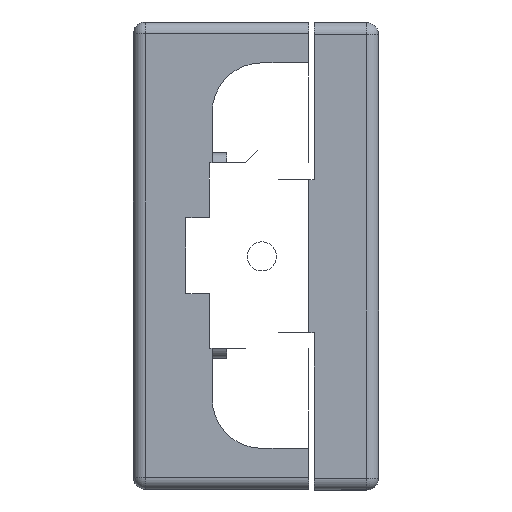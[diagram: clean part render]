
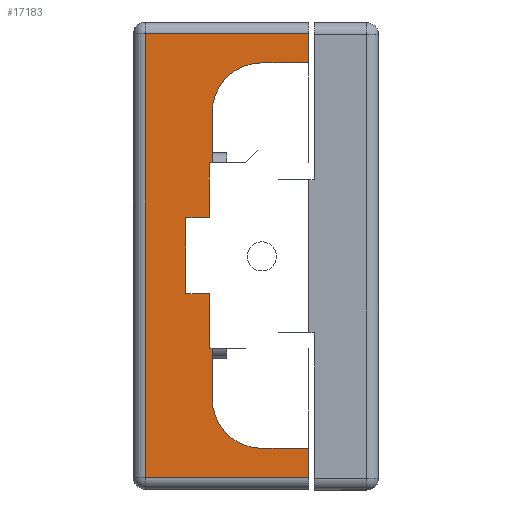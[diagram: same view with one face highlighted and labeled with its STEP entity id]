
A CAD part, left-side view. The second image highlights one B-rep face of the part: STEP entity #17183.
In plain terms, the highlighted planar face has unit normal (-1, 0, 0).
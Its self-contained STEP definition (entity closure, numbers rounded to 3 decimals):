
#35 = EDGE_CURVE ( 'NONE', #10349, #2771, #7876, .T. ) ;
#81 = ORIENTED_EDGE ( 'NONE', *, *, #8633, .F. ) ;
#169 = CARTESIAN_POINT ( 'NONE',  ( -67.595, 0.552, -7.882 ) ) ;
#181 = AXIS2_PLACEMENT_3D ( 'NONE', #425, #1807, #11745 ) ;
#332 = ORIENTED_EDGE ( 'NONE', *, *, #12988, .F. ) ;
#425 = CARTESIAN_POINT ( 'NONE',  ( -67.595, 15.552, -19.932 ) ) ;
#710 = LINE ( 'NONE', #6237, #2035 ) ;
#777 = VERTEX_POINT ( 'NONE', #7591 ) ;
#792 = EDGE_CURVE ( 'NONE', #13865, #17535, #12606, .T. ) ;
#1005 = DIRECTION ( 'NONE',  ( 0., 0., -1. ) ) ;
#1461 = VERTEX_POINT ( 'NONE', #9976 ) ;
#1480 = CARTESIAN_POINT ( 'NONE',  ( -67.595, 9.052, -3.182 ) ) ;
#1529 = DIRECTION ( 'NONE',  ( 0., -1., 0. ) ) ;
#1756 = VECTOR ( 'NONE', #14605, 1000. ) ;
#1807 = DIRECTION ( 'NONE',  ( 1., 0., 0. ) ) ;
#1870 = VECTOR ( 'NONE', #3867, 1000. ) ;
#2002 = CARTESIAN_POINT ( 'NONE',  ( -67.595, 4.552, 16.568 ) ) ;
#2035 = VECTOR ( 'NONE', #17346, 1000. ) ;
#2158 = VERTEX_POINT ( 'NONE', #3423 ) ;
#2169 = CARTESIAN_POINT ( 'NONE',  ( -67.595, 0.552, -18.932 ) ) ;
#2516 = EDGE_CURVE ( 'NONE', #3226, #17639, #10465, .T. ) ;
#2662 = EDGE_CURVE ( 'NONE', #10001, #777, #11988, .T. ) ;
#2683 = EDGE_CURVE ( 'NONE', #5900, #11520, #12357, .T. ) ;
#2735 = ORIENTED_EDGE ( 'NONE', *, *, #6198, .F. ) ;
#2771 = VERTEX_POINT ( 'NONE', #16966 ) ;
#2875 = LINE ( 'NONE', #8556, #4196 ) ;
#3226 = VERTEX_POINT ( 'NONE', #4086 ) ;
#3331 = VECTOR ( 'NONE', #4705, 1000. ) ;
#3382 = VERTEX_POINT ( 'NONE', #14546 ) ;
#3423 = CARTESIAN_POINT ( 'NONE',  ( -67.595, 8.802, -12.182 ) ) ;
#3448 = EDGE_CURVE ( 'NONE', #2771, #5900, #3858, .T. ) ;
#3858 = LINE ( 'NONE', #5385, #3331 ) ;
#3867 = DIRECTION ( 'NONE',  ( 0., 0., -1. ) ) ;
#3933 = CARTESIAN_POINT ( 'NONE',  ( -67.595, 11.052, -3.182 ) ) ;
#4086 = CARTESIAN_POINT ( 'NONE',  ( -67.595, 14.552, -18.932 ) ) ;
#4196 = VECTOR ( 'NONE', #12680, 1000. ) ;
#4240 = AXIS2_PLACEMENT_3D ( 'NONE', #15386, #7083, #16754 ) ;
#4605 = CIRCLE ( 'NONE', #4240, 4.25 ) ;
#4623 = EDGE_CURVE ( 'NONE', #13648, #3382, #12234, .T. ) ;
#4677 = ORIENTED_EDGE ( 'NONE', *, *, #7654, .T. ) ;
#4705 = DIRECTION ( 'NONE',  ( 0., 1., 0. ) ) ;
#4746 = EDGE_CURVE ( 'NONE', #16986, #10349, #16019, .T. ) ;
#4948 = ORIENTED_EDGE ( 'NONE', *, *, #10698, .F. ) ;
#5385 = CARTESIAN_POINT ( 'NONE',  ( -67.595, 11.052, 3.318 ) ) ;
#5471 = LINE ( 'NONE', #16185, #5711 ) ;
#5711 = VECTOR ( 'NONE', #9396, 1000. ) ;
#5769 = EDGE_LOOP ( 'NONE', ( #15069, #6124, #4677, #11723, #15345, #12550, #81, #2735, #332, #17222, #13003, #7495, #5824, #6881, #7294, #4948, #12400, #16310 ) ) ;
#5817 = CARTESIAN_POINT ( 'NONE',  ( -67.595, 9.052, 8.018 ) ) ;
#5824 = ORIENTED_EDGE ( 'NONE', *, *, #3448, .F. ) ;
#5900 = VERTEX_POINT ( 'NONE', #7087 ) ;
#6083 = CARTESIAN_POINT ( 'NONE',  ( -67.595, 4.552, -16.432 ) ) ;
#6100 = VERTEX_POINT ( 'NONE', #10762 ) ;
#6124 = ORIENTED_EDGE ( 'NONE', *, *, #14849, .T. ) ;
#6198 = EDGE_CURVE ( 'NONE', #6100, #2158, #6744, .T. ) ;
#6237 = CARTESIAN_POINT ( 'NONE',  ( -67.595, 0.552, -19.932 ) ) ;
#6519 = DIRECTION ( 'NONE',  ( 0., -1., 0. ) ) ;
#6581 = EDGE_CURVE ( 'NONE', #17639, #777, #710, .T. ) ;
#6744 = LINE ( 'NONE', #9633, #9255 ) ;
#6881 = ORIENTED_EDGE ( 'NONE', *, *, #35, .F. ) ;
#6996 = CARTESIAN_POINT ( 'NONE',  ( -67.595, 9.052, -3.182 ) ) ;
#7083 = DIRECTION ( 'NONE',  ( -1., 0., 0. ) ) ;
#7087 = CARTESIAN_POINT ( 'NONE',  ( -67.595, 11.052, 3.318 ) ) ;
#7294 = ORIENTED_EDGE ( 'NONE', *, *, #4746, .F. ) ;
#7495 = ORIENTED_EDGE ( 'NONE', *, *, #2683, .F. ) ;
#7591 = CARTESIAN_POINT ( 'NONE',  ( -67.595, 0.552, -16.432 ) ) ;
#7654 = EDGE_CURVE ( 'NONE', #15996, #3226, #10163, .T. ) ;
#7876 = LINE ( 'NONE', #12796, #7959 ) ;
#7959 = VECTOR ( 'NONE', #15567, 1000. ) ;
#7983 = CARTESIAN_POINT ( 'NONE',  ( -67.595, 0.552, -19.932 ) ) ;
#8106 = DIRECTION ( 'NONE',  ( 0., 0., 1. ) ) ;
#8556 = CARTESIAN_POINT ( 'NONE',  ( -67.595, 8.802, 12.318 ) ) ;
#8633 = EDGE_CURVE ( 'NONE', #2158, #10001, #4605, .T. ) ;
#8699 = CARTESIAN_POINT ( 'NONE',  ( -67.595, 15.552, 19.068 ) ) ;
#9001 = PLANE ( 'NONE',  #181 ) ;
#9071 = EDGE_CURVE ( 'NONE', #11520, #10780, #13236, .T. ) ;
#9255 = VECTOR ( 'NONE', #17780, 1000. ) ;
#9396 = DIRECTION ( 'NONE',  ( 0., 1., 0. ) ) ;
#9550 = CARTESIAN_POINT ( 'NONE',  ( -67.595, 14.552, -19.932 ) ) ;
#9633 = CARTESIAN_POINT ( 'NONE',  ( -67.595, 8.802, -12.182 ) ) ;
#9976 = CARTESIAN_POINT ( 'NONE',  ( -67.595, 9.052, -7.882 ) ) ;
#10001 = VERTEX_POINT ( 'NONE', #18095 ) ;
#10163 = LINE ( 'NONE', #9550, #1870 ) ;
#10349 = VERTEX_POINT ( 'NONE', #5817 ) ;
#10408 = LINE ( 'NONE', #169, #10431 ) ;
#10431 = VECTOR ( 'NONE', #1529, 1000. ) ;
#10434 = VECTOR ( 'NONE', #11219, 1000. ) ;
#10465 = LINE ( 'NONE', #12650, #10434 ) ;
#10611 = CARTESIAN_POINT ( 'NONE',  ( -67.595, 0.552, 19.068 ) ) ;
#10616 = CARTESIAN_POINT ( 'NONE',  ( -67.595, 4.552, 12.318 ) ) ;
#10643 = LINE ( 'NONE', #15015, #14655 ) ;
#10698 = EDGE_CURVE ( 'NONE', #3382, #16986, #2875, .T. ) ;
#10731 = LINE ( 'NONE', #8699, #15990 ) ;
#10762 = CARTESIAN_POINT ( 'NONE',  ( -67.595, 8.802, -7.882 ) ) ;
#10780 = VERTEX_POINT ( 'NONE', #1480 ) ;
#11085 = VECTOR ( 'NONE', #8106, 1000. ) ;
#11219 = DIRECTION ( 'NONE',  ( 0., -1., 0. ) ) ;
#11520 = VERTEX_POINT ( 'NONE', #3933 ) ;
#11723 = ORIENTED_EDGE ( 'NONE', *, *, #2516, .T. ) ;
#11745 = DIRECTION ( 'NONE',  ( 0., 0., -1. ) ) ;
#11950 = VECTOR ( 'NONE', #6519, 1000. ) ;
#11974 = EDGE_CURVE ( 'NONE', #10780, #1461, #10643, .T. ) ;
#11988 = LINE ( 'NONE', #6083, #11950 ) ;
#12234 = CIRCLE ( 'NONE', #14196, 4.25 ) ;
#12357 = LINE ( 'NONE', #13492, #12586 ) ;
#12400 = ORIENTED_EDGE ( 'NONE', *, *, #4623, .F. ) ;
#12550 = ORIENTED_EDGE ( 'NONE', *, *, #2662, .F. ) ;
#12586 = VECTOR ( 'NONE', #13423, 1000. ) ;
#12592 = CARTESIAN_POINT ( 'NONE',  ( -67.595, 14.552, 19.068 ) ) ;
#12606 = LINE ( 'NONE', #7983, #11085 ) ;
#12650 = CARTESIAN_POINT ( 'NONE',  ( -67.595, 15.552, -18.932 ) ) ;
#12680 = DIRECTION ( 'NONE',  ( 0., 0., -1. ) ) ;
#12738 = EDGE_CURVE ( 'NONE', #13865, #13648, #5471, .T. ) ;
#12796 = CARTESIAN_POINT ( 'NONE',  ( -67.595, 9.052, 3.318 ) ) ;
#12872 = DIRECTION ( 'NONE',  ( 0., 1., 0. ) ) ;
#12988 = EDGE_CURVE ( 'NONE', #1461, #6100, #10408, .T. ) ;
#13003 = ORIENTED_EDGE ( 'NONE', *, *, #9071, .F. ) ;
#13223 = DIRECTION ( 'NONE',  ( -1., 0., 0. ) ) ;
#13236 = LINE ( 'NONE', #6996, #16944 ) ;
#13423 = DIRECTION ( 'NONE',  ( 0., 0., -1. ) ) ;
#13456 = DIRECTION ( 'NONE',  ( 0., 0., -1. ) ) ;
#13492 = CARTESIAN_POINT ( 'NONE',  ( -67.595, 11.052, -3.182 ) ) ;
#13648 = VERTEX_POINT ( 'NONE', #2002 ) ;
#13865 = VERTEX_POINT ( 'NONE', #16446 ) ;
#14196 = AXIS2_PLACEMENT_3D ( 'NONE', #10616, #13223, #13456 ) ;
#14546 = CARTESIAN_POINT ( 'NONE',  ( -67.595, 8.802, 12.318 ) ) ;
#14605 = DIRECTION ( 'NONE',  ( 0., 1., 0. ) ) ;
#14655 = VECTOR ( 'NONE', #1005, 1000. ) ;
#14682 = CARTESIAN_POINT ( 'NONE',  ( -67.595, 9.052, 8.018 ) ) ;
#14849 = EDGE_CURVE ( 'NONE', #17535, #15996, #10731, .T. ) ;
#15015 = CARTESIAN_POINT ( 'NONE',  ( -67.595, 9.052, -7.882 ) ) ;
#15069 = ORIENTED_EDGE ( 'NONE', *, *, #792, .T. ) ;
#15345 = ORIENTED_EDGE ( 'NONE', *, *, #6581, .T. ) ;
#15386 = CARTESIAN_POINT ( 'NONE',  ( -67.595, 4.552, -12.182 ) ) ;
#15567 = DIRECTION ( 'NONE',  ( 0., 0., -1. ) ) ;
#15798 = FACE_OUTER_BOUND ( 'NONE', #5769, .T. ) ;
#15990 = VECTOR ( 'NONE', #12872, 1000. ) ;
#15996 = VERTEX_POINT ( 'NONE', #12592 ) ;
#16019 = LINE ( 'NONE', #14682, #1756 ) ;
#16185 = CARTESIAN_POINT ( 'NONE',  ( -67.595, 4.552, 16.568 ) ) ;
#16310 = ORIENTED_EDGE ( 'NONE', *, *, #12738, .F. ) ;
#16446 = CARTESIAN_POINT ( 'NONE',  ( -67.595, 0.552, 16.568 ) ) ;
#16683 = DIRECTION ( 'NONE',  ( 0., -1., 0. ) ) ;
#16754 = DIRECTION ( 'NONE',  ( 0., 0., 1. ) ) ;
#16944 = VECTOR ( 'NONE', #16683, 1000. ) ;
#16966 = CARTESIAN_POINT ( 'NONE',  ( -67.595, 9.052, 3.318 ) ) ;
#16986 = VERTEX_POINT ( 'NONE', #17776 ) ;
#17183 = ADVANCED_FACE ( 'NONE', ( #15798 ), #9001, .F. ) ;
#17222 = ORIENTED_EDGE ( 'NONE', *, *, #11974, .F. ) ;
#17346 = DIRECTION ( 'NONE',  ( 0., 0., 1. ) ) ;
#17535 = VERTEX_POINT ( 'NONE', #10611 ) ;
#17639 = VERTEX_POINT ( 'NONE', #2169 ) ;
#17776 = CARTESIAN_POINT ( 'NONE',  ( -67.595, 8.802, 8.018 ) ) ;
#17780 = DIRECTION ( 'NONE',  ( 0., 0., -1. ) ) ;
#18095 = CARTESIAN_POINT ( 'NONE',  ( -67.595, 4.552, -16.432 ) ) ;
